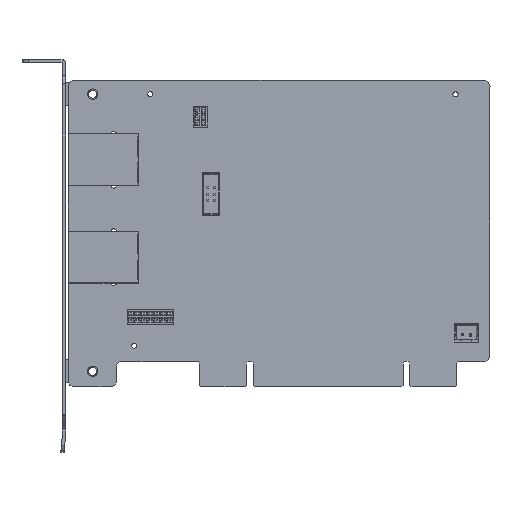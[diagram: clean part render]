
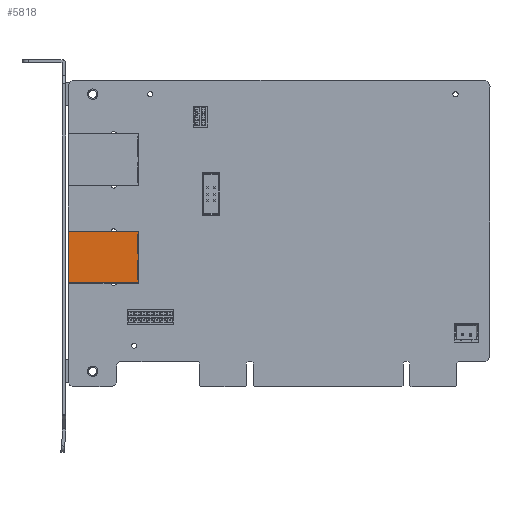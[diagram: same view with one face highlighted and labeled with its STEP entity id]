
A CAD part, top view. The second image highlights one B-rep face of the part: STEP entity #5818.
In plain terms, the highlighted planar face has unit normal (0, 0, 1).
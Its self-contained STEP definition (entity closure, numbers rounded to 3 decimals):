
#1113 = VECTOR ( 'NONE', #3274, 1000. ) ;
#1269 = DIRECTION ( 'NONE',  ( 0., 1., 0. ) ) ;
#2265 = VERTEX_POINT ( 'NONE', #19358 ) ;
#3053 = LINE ( 'NONE', #14436, #3946 ) ;
#3148 = EDGE_LOOP ( 'NONE', ( #4790, #5918, #11490, #18509 ) ) ;
#3274 = DIRECTION ( 'NONE',  ( 0., 1., 0. ) ) ;
#3278 = EDGE_CURVE ( 'NONE', #27483, #36002, #10054, .T. ) ;
#3735 = FACE_BOUND ( 'NONE', #35993, .T. ) ;
#3946 = VECTOR ( 'NONE', #29361, 1000. ) ;
#4079 = CARTESIAN_POINT ( 'NONE',  ( 21.494, 50.136, 13.296 ) ) ;
#4432 = ORIENTED_EDGE ( 'NONE', *, *, #28344, .F. ) ;
#4790 = ORIENTED_EDGE ( 'NONE', *, *, #36572, .F. ) ;
#4911 = ORIENTED_EDGE ( 'NONE', *, *, #18950, .F. ) ;
#5045 = DIRECTION ( 'NONE',  ( 1., 0., 0. ) ) ;
#5050 = DIRECTION ( 'NONE',  ( -1., 0., 0. ) ) ;
#5818 = ADVANCED_FACE ( 'NONE', ( #20715, #12500, #3735 ), #18290, .F. ) ;
#5868 = VERTEX_POINT ( 'NONE', #35092 ) ;
#5918 = ORIENTED_EDGE ( 'NONE', *, *, #27810, .F. ) ;
#5935 = AXIS2_PLACEMENT_3D ( 'NONE', #34713, #6703, #23510 ) ;
#6626 = VERTEX_POINT ( 'NONE', #28838 ) ;
#6703 = DIRECTION ( 'NONE',  ( 0., 0., -1. ) ) ;
#7040 = CARTESIAN_POINT ( 'NONE',  ( 21.594, 47.005, 13.296 ) ) ;
#7116 = VERTEX_POINT ( 'NONE', #7300 ) ;
#7202 = EDGE_CURVE ( 'NONE', #36002, #14988, #21863, .T. ) ;
#7300 = CARTESIAN_POINT ( 'NONE',  ( 21.494, 47.005, 13.296 ) ) ;
#7427 = ORIENTED_EDGE ( 'NONE', *, *, #23076, .F. ) ;
#7555 = CARTESIAN_POINT ( 'NONE',  ( 18.174, 33.005, 13.296 ) ) ;
#8117 = DIRECTION ( 'NONE',  ( 0., -1., 0. ) ) ;
#8307 = EDGE_CURVE ( 'NONE', #13550, #7116, #30804, .T. ) ;
#8744 = CARTESIAN_POINT ( 'NONE',  ( 18.174, 39.005, 13.296 ) ) ;
#8969 = CARTESIAN_POINT ( 'NONE',  ( 21.494, 33.005, 13.296 ) ) ;
#9159 = DIRECTION ( 'NONE',  ( 0., 1., 0. ) ) ;
#10054 = LINE ( 'NONE', #13042, #10564 ) ;
#10358 = EDGE_CURVE ( 'NONE', #32518, #2265, #28479, .T. ) ;
#10476 = VERTEX_POINT ( 'NONE', #15023 ) ;
#10564 = VECTOR ( 'NONE', #35636, 1000. ) ;
#10844 = CARTESIAN_POINT ( 'NONE',  ( 18.174, 32.005, 13.296 ) ) ;
#11039 = VECTOR ( 'NONE', #30430, 1000. ) ;
#11490 = ORIENTED_EDGE ( 'NONE', *, *, #7202, .F. ) ;
#11699 = VECTOR ( 'NONE', #16141, 1000. ) ;
#12346 = LINE ( 'NONE', #25776, #25932 ) ;
#12500 = FACE_BOUND ( 'NONE', #23272, .T. ) ;
#12653 = DIRECTION ( 'NONE',  ( 0., -1., 0. ) ) ;
#12842 = LINE ( 'NONE', #15460, #33626 ) ;
#13042 = CARTESIAN_POINT ( 'NONE',  ( 21.794, 50.136, 13.296 ) ) ;
#13231 = VECTOR ( 'NONE', #26104, 1000. ) ;
#13451 = LINE ( 'NONE', #30601, #14556 ) ;
#13550 = VERTEX_POINT ( 'NONE', #7040 ) ;
#14436 = CARTESIAN_POINT ( 'NONE',  ( 18.174, 41.005, 13.296 ) ) ;
#14556 = VECTOR ( 'NONE', #5045, 1000. ) ;
#14988 = VERTEX_POINT ( 'NONE', #24179 ) ;
#15023 = CARTESIAN_POINT ( 'NONE',  ( 0.194, 48.005, 13.296 ) ) ;
#15460 = CARTESIAN_POINT ( 'NONE',  ( 21.594, 50.136, 13.296 ) ) ;
#16141 = DIRECTION ( 'NONE',  ( 1., 0., 0. ) ) ;
#16250 = CARTESIAN_POINT ( 'NONE',  ( 18.174, 47.005, 13.296 ) ) ;
#17648 = ORIENTED_EDGE ( 'NONE', *, *, #8307, .F. ) ;
#17710 = LINE ( 'NONE', #8744, #13231 ) ;
#18290 = PLANE ( 'NONE',  #5935 ) ;
#18509 = ORIENTED_EDGE ( 'NONE', *, *, #3278, .F. ) ;
#18889 = CARTESIAN_POINT ( 'NONE',  ( 21.794, 48.005, 13.296 ) ) ;
#18950 = EDGE_CURVE ( 'NONE', #5868, #6626, #3053, .T. ) ;
#19358 = CARTESIAN_POINT ( 'NONE',  ( 21.594, 39.005, 13.296 ) ) ;
#19587 = VERTEX_POINT ( 'NONE', #8969 ) ;
#19683 = ORIENTED_EDGE ( 'NONE', *, *, #24976, .F. ) ;
#20715 = FACE_OUTER_BOUND ( 'NONE', #3148, .T. ) ;
#21863 = LINE ( 'NONE', #10844, #11039 ) ;
#23076 = EDGE_CURVE ( 'NONE', #34145, #19587, #33320, .T. ) ;
#23272 = EDGE_LOOP ( 'NONE', ( #17648, #19683, #4911, #32683 ) ) ;
#23510 = DIRECTION ( 'NONE',  ( -1., 0., 0. ) ) ;
#24179 = CARTESIAN_POINT ( 'NONE',  ( 0.194, 32.005, 13.296 ) ) ;
#24976 = EDGE_CURVE ( 'NONE', #6626, #13550, #12842, .T. ) ;
#25091 = EDGE_CURVE ( 'NONE', #7116, #5868, #26831, .T. ) ;
#25776 = CARTESIAN_POINT ( 'NONE',  ( 0.194, 50.136, 13.296 ) ) ;
#25932 = VECTOR ( 'NONE', #9159, 1000. ) ;
#26104 = DIRECTION ( 'NONE',  ( -1., 0., 0. ) ) ;
#26831 = LINE ( 'NONE', #4079, #28272 ) ;
#27335 = CARTESIAN_POINT ( 'NONE',  ( 21.594, 33.005, 13.296 ) ) ;
#27483 = VERTEX_POINT ( 'NONE', #18889 ) ;
#27810 = EDGE_CURVE ( 'NONE', #14988, #10476, #12346, .T. ) ;
#28272 = VECTOR ( 'NONE', #12653, 1000. ) ;
#28344 = EDGE_CURVE ( 'NONE', #19587, #32518, #33126, .T. ) ;
#28479 = LINE ( 'NONE', #31452, #1113 ) ;
#28838 = CARTESIAN_POINT ( 'NONE',  ( 21.594, 41.005, 13.296 ) ) ;
#29361 = DIRECTION ( 'NONE',  ( 1., 0., 0. ) ) ;
#30430 = DIRECTION ( 'NONE',  ( -1., 0., 0. ) ) ;
#30601 = CARTESIAN_POINT ( 'NONE',  ( 18.174, 48.005, 13.296 ) ) ;
#30804 = LINE ( 'NONE', #16250, #33161 ) ;
#31058 = CARTESIAN_POINT ( 'NONE',  ( 21.494, 50.136, 13.296 ) ) ;
#31452 = CARTESIAN_POINT ( 'NONE',  ( 21.594, 50.136, 13.296 ) ) ;
#31711 = EDGE_CURVE ( 'NONE', #2265, #34145, #17710, .T. ) ;
#32352 = CARTESIAN_POINT ( 'NONE',  ( 21.794, 32.005, 13.296 ) ) ;
#32518 = VERTEX_POINT ( 'NONE', #27335 ) ;
#32683 = ORIENTED_EDGE ( 'NONE', *, *, #25091, .F. ) ;
#33126 = LINE ( 'NONE', #7555, #11699 ) ;
#33161 = VECTOR ( 'NONE', #5050, 1000. ) ;
#33320 = LINE ( 'NONE', #31058, #33495 ) ;
#33495 = VECTOR ( 'NONE', #8117, 1000. ) ;
#33626 = VECTOR ( 'NONE', #1269, 1000. ) ;
#33726 = ORIENTED_EDGE ( 'NONE', *, *, #31711, .F. ) ;
#34005 = ORIENTED_EDGE ( 'NONE', *, *, #10358, .F. ) ;
#34145 = VERTEX_POINT ( 'NONE', #36630 ) ;
#34713 = CARTESIAN_POINT ( 'NONE',  ( 18.174, 50.136, 13.296 ) ) ;
#35092 = CARTESIAN_POINT ( 'NONE',  ( 21.494, 41.005, 13.296 ) ) ;
#35636 = DIRECTION ( 'NONE',  ( 0., -1., 0. ) ) ;
#35993 = EDGE_LOOP ( 'NONE', ( #34005, #4432, #7427, #33726 ) ) ;
#36002 = VERTEX_POINT ( 'NONE', #32352 ) ;
#36572 = EDGE_CURVE ( 'NONE', #10476, #27483, #13451, .T. ) ;
#36630 = CARTESIAN_POINT ( 'NONE',  ( 21.494, 39.005, 13.296 ) ) ;
